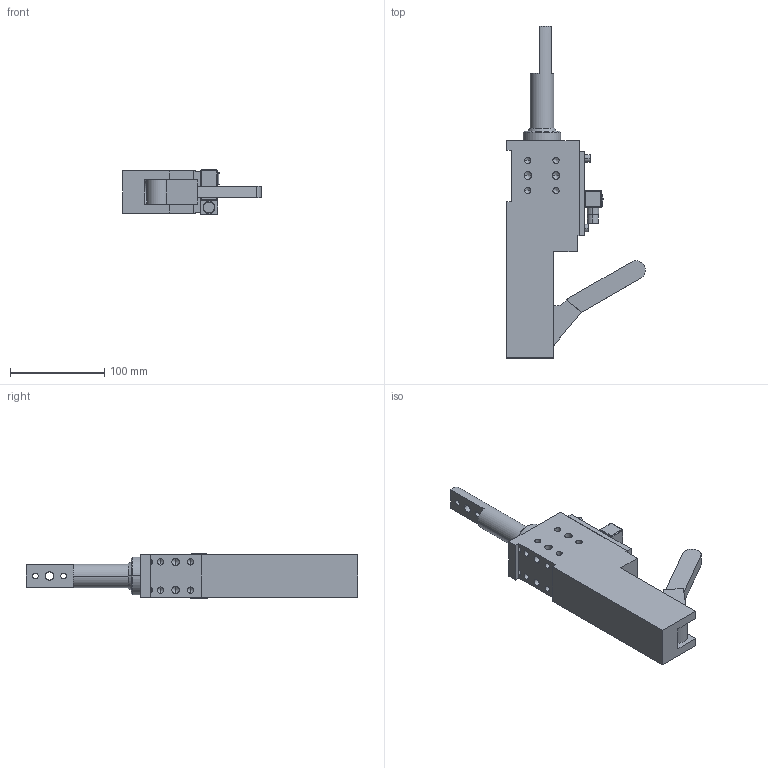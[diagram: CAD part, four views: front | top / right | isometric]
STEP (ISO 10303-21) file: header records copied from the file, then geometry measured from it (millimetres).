
FILE_DESCRIPTION((''),'2;1');
FILE_NAME('S:\Matthew\Step Files\Locators\XLPR 40-HO-40-S21.stp','2006-07-04T16:20:54',('Matthew'),(''),'Autodesk Inventor 8','Autodesk Inventor 8','');
FILE_SCHEMA(('AUTOMOTIVE_DESIGN { 1 0 10303 214 1 1 1 1 }'));
Length unit declared in the file: millimetre
Products named in the file (6): XLPR 40-HO-40-S21; XLPR 40-HO-40-S211; XLPR 40-HO-40-S212; XLPR 40-HO-40-S213; XLPR 40-HO-40-S214; XLPR 40-HO-40-S215
Assembly tree (5 placements, depth 2):
  XLPR 40-HO-40-S21
    XLPR 40-HO-40-S211
    XLPR 40-HO-40-S212
    XLPR 40-HO-40-S213
    XLPR 40-HO-40-S214
    XLPR 40-HO-40-S215
Bounding box: 147.45 x 353 x 47 mm (x, y, z)
Volume: 742373.8 mm3; surface area: 131879.1 mm2
Topology: 5 solids, 7 shells, 329 faces, 829 edges, 490 vertices
Faces by surface type: bspline 108, cylinder 98, plane 93, torus 12, cone 10, sphere 8
Entity records: 11312 total; most frequent: CARTESIAN_POINT 3711, DIRECTION 1579, ORIENTED_EDGE 1542, EDGE_CURVE 771, AXIS2_PLACEMENT_3D 594, VERTEX_POINT 490, VECTOR 391, LINE 391
